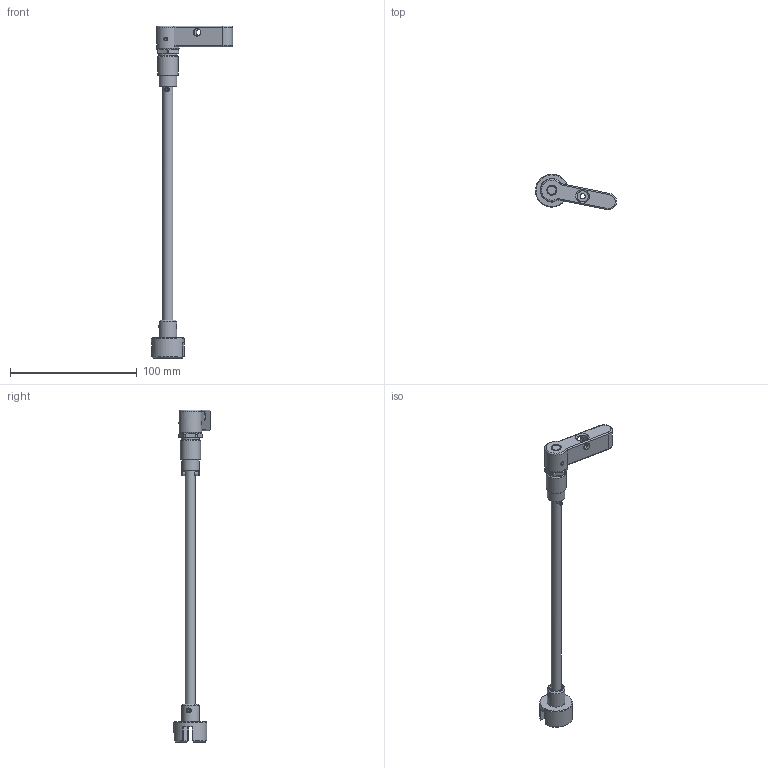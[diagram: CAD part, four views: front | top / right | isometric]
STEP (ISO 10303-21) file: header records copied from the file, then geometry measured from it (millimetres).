
FILE_DESCRIPTION((''),'2;1');
FILE_NAME('C:\Users\A.V.Nesterov\Desktop\111\3D\ТЗ\ТЗ 110430\РГВ05_М16_3D.stp','2024-08-27T09:50:17',('A.V.Nesterov'),(''),'Autodesk Inventor 2012','Autodesk Inventor 2012','');
FILE_SCHEMA(('AUTOMOTIVE_DESIGN { 1 0 10303 214 1 1 1 1 }'));
Length unit declared in the file: millimetre
Products named in the file (1): РГВ05_М16_3D
Bounding box: 64.1 x 28.46 x 262.3 mm (x, y, z)
Surface area: 18279.2 mm2 (no closed solid volume)
Topology: 0 solids, 7 shells, 124 faces, 280 edges, 175 vertices
Faces by surface type: plane 46, cylinder 41, cone 26, bspline 6, torus 5
Full cylindrical faces by diameter (mm): 3 x6, 4.1 x1, 6 x2, 8 x5, 8.8 x1, 11.5 x1, 14 x2, 14.2 x1, 16 x1, 18 x1, 26 x1
Entity records: 6239 total; most frequent: CARTESIAN_POINT 3642, DIRECTION 522, ORIENTED_EDGE 470, EDGE_CURVE 235, AXIS2_PLACEMENT_3D 218, EDGE_LOOP 189, VERTEX_POINT 166, FACE_OUTER_BOUND 124
